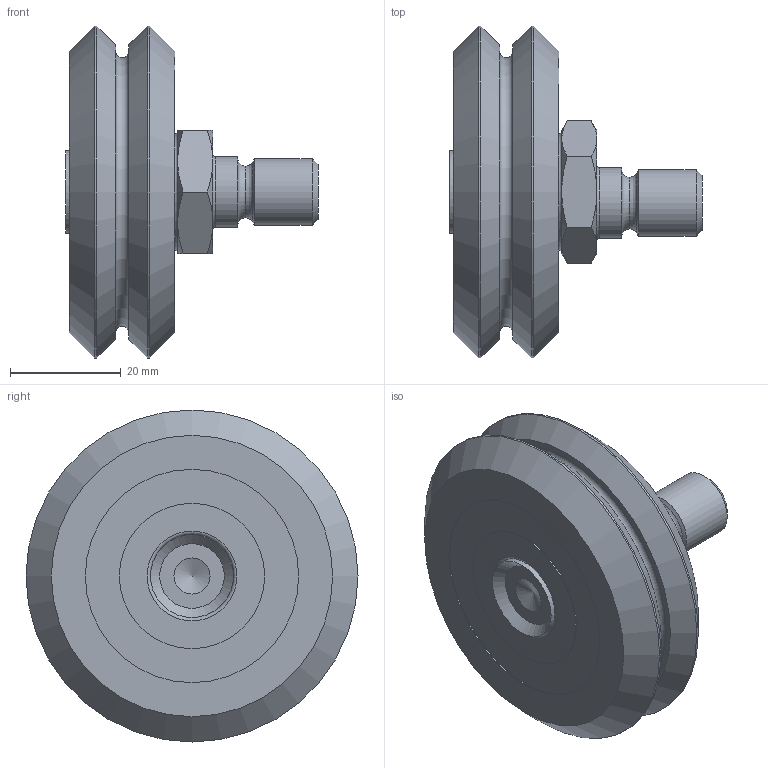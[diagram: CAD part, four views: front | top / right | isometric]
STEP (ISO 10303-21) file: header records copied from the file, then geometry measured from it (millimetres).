
FILE_DESCRIPTION( ( 'STEP AP214' ), '1' );
FILE_NAME( 'p:/temp/worker_40/temp/app_48_02019012316095474551809192d056f_000000_00_00_000000/format_0/SWSE4XA.stp', '2019-01-23T15:09:55', ( '' ), ( '' ), ' ', 'PARTsolutions', ' ' );
FILE_SCHEMA( ( 'AUTOMOTIVE_DESIGN { 1 0 10303 214 1 1 1 1 }' ) );
Length unit declared in the file: inch
Products named in the file (3): SWSE4XA; _SWSE4; _W4X
Assembly tree (2 placements, depth 2):
  SWSE4XA
    _SWSE4
    _W4X
Bounding box: 45.52 x 59.94 x 59.94 mm (x, y, z)
Volume: 50017.7 mm3; surface area: 12948.2 mm2
Topology: 2 solids, 2 shells, 67 faces, 121 edges, 72 vertices
Faces by surface type: plane 24, cone 20, cylinder 15, torus 8
Full cylindrical faces by diameter (mm): 9.347 x1, 12 x1, 12.7 x1, 14.989 x1, 15.001 x1, 25.857 x2, 26.238 x2, 38.519 x2, 38.9 x2, 59.944 x2
Entity records: 2156 total; most frequent: CARTESIAN_POINT 375, DIRECTION 264, ORIENTED_EDGE 178, AXIS2_PLACEMENT_3D 129, EDGE_LOOP 114, FACE_OUTER_BOUND 90, EDGE_CURVE 89, VERTEX_POINT 72
